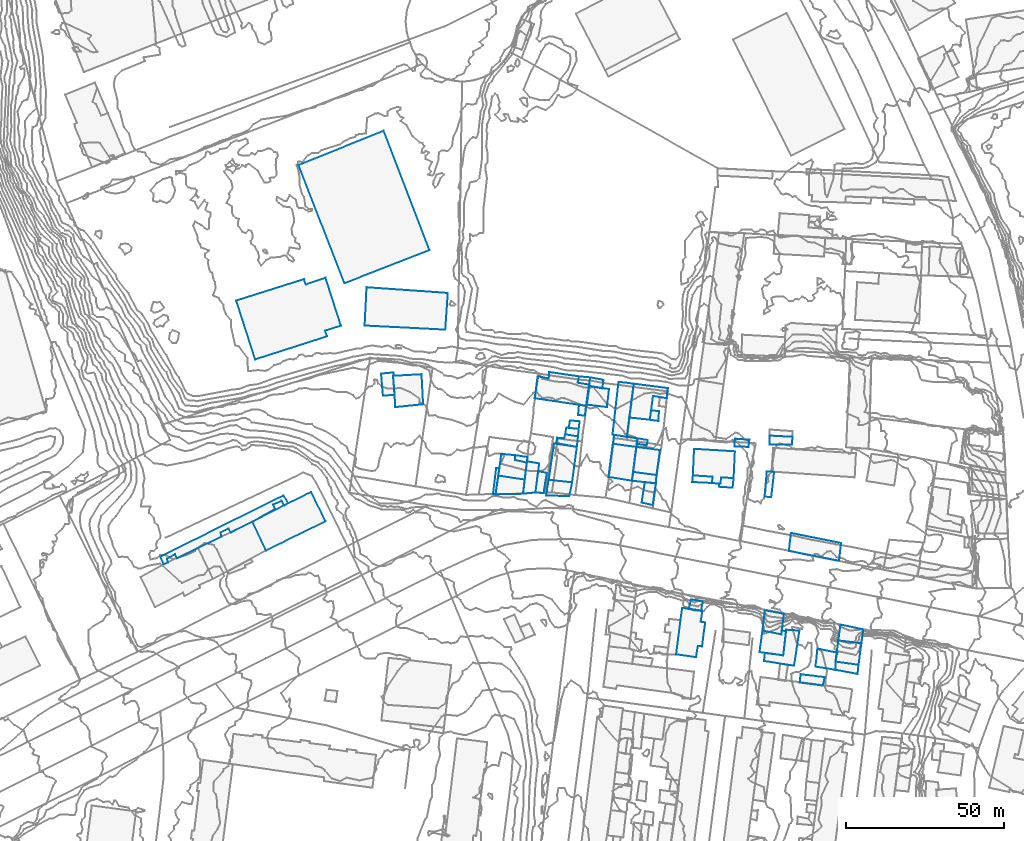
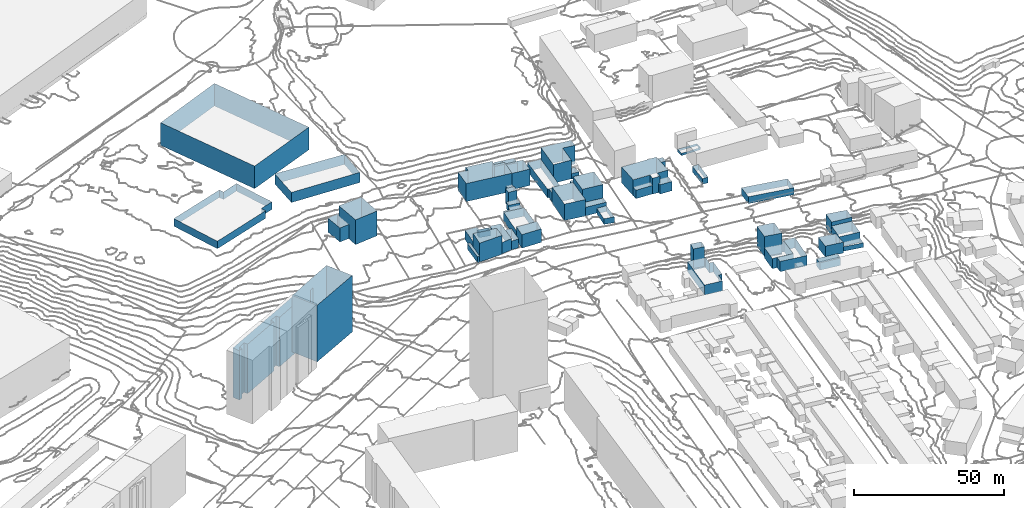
# Not in any storey, part 62 of 419: 49 walls.
"""IFC2X3 model written with IfcOpenShell, lengths in metres."""

from ifc_helpers import new_model, si_unit, frame, origin_with_axes, place, context, subcontext, project, faceted_brep, element, save


model = new_model("IFC2X3")

# Units and contexts
model_context = context("Model", 3, precision=1e-05, world=origin_with_axes())
body_context = subcontext(model_context, "Body", "Model", "MODEL_VIEW")
ifc_project = project(units=[si_unit("AREAUNIT", "SQUARE_METRE"), si_unit("LENGTHUNIT", "METRE")], contexts=[model_context])

# Walls
wall_1_placement = place(None, frame((458.1920204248, 875.7976909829, 41.0071994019), z_axis=(0.0, 0.0, 1.0), x_axis=(1.0, 0.0, 0.0)))
element("IfcWall", 1, at=wall_1_placement, Name="Mur 0", context=body_context, shape_type="Brep", body=[
    faceted_brep([(8.7000000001, 0.1999999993, 7.6928005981), (0.0, 0.0, 7.6928005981), (8.7000000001, 0.1999999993, 0.0), (0.0, 0.0, 0.0), (9.2000000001, 4.6999999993, 7.6928005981), (9.2000000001, 4.6999999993, 0.0), (0.9, 5.8999999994, 7.6928005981), (0.9, 5.8999999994, 0.0)], [[[0, 1, 2]], [[2, 1, 3]], [[4, 0, 5]], [[5, 0, 2]], [[1, 6, 3]], [[3, 6, 7]], [[6, 4, 7]], [[7, 4, 5]]]),
])
wall_2_placement = place(None, frame((425.7920204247, 913.2976909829, 42.4510005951), z_axis=(0.0, 0.0, 1.0), x_axis=(1.0, 0.0, 0.0)))
element("IfcWall", 2, at=wall_2_placement, Name="Mur 0", context=body_context, shape_type="Brep", body=[
    faceted_brep([(0.7000000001, -9.9000000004, 10.0489994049), (0.5, -6.6000000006, 10.0489994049), (0.7000000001, -9.9000000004, 0.0), (0.5, -6.6000000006, 0.0), (9.5, -9.0, 10.0489994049), (9.5, -9.0, 0.0), (9.0, 0.5, 10.0489994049), (9.0, 0.5, 0.0), (0.0, 0.0, 10.0489994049), (0.0, 0.0, 0.0)], [[[0, 1, 2]], [[2, 1, 3]], [[4, 0, 5]], [[5, 0, 2]], [[6, 4, 7]], [[7, 4, 5]], [[1, 8, 3]], [[3, 8, 9]], [[8, 6, 9]], [[9, 6, 7]]]),
])
wall_3_placement = place(None, frame((459.0920204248, 881.6976909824, 41.6847983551), z_axis=(0.0, 0.0, 1.0), x_axis=(1.0, 0.0, 0.0)))
element("IfcWall", 3, at=wall_3_placement, Name="Mur 0", context=body_context, shape_type="Brep", body=[
    faceted_brep([(9.0, 4.1000000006, 3.8152016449), (8.3, -1.2000000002, 3.8152016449), (9.0, 4.1000000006, 0.0), (8.3, -1.2000000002, 0.0), (5.2, 5.0, 3.8152016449), (5.2, 5.0, 0.0), (5.3, 6.5, 3.8152016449), (5.3, 6.5, 0.0), (0.9, 6.9000000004, 3.8152016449), (0.9, 6.9000000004, 0.0), (0.0, 0.0, 3.8152016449), (0.0, 0.0, 0.0)], [[[0, 1, 2]], [[2, 1, 3]], [[4, 0, 5]], [[5, 0, 2]], [[6, 4, 7]], [[7, 4, 5]], [[8, 6, 9]], [[9, 6, 7]], [[1, 10, 3]], [[3, 10, 11]], [[10, 8, 11]], [[11, 8, 9]]]),
])
wall_4_placement = place(None, frame((542.5920204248, 832.6976909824, 39.8529987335), z_axis=(0.0, 0.0, 1.0), x_axis=(1.0, 0.0, 0.0)))
element("IfcWall", 4, at=wall_4_placement, Name="Mur 0", context=body_context, shape_type="Brep", body=[
    faceted_brep([(0.0, 0.0, 8.1470012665), (0.8, 6.4000000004, 8.1470012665), (0.0, 0.0, 0.0), (0.8, 6.4000000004, 0.0), (6.0, -1.2000000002, 8.1470012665), (6.0, -1.2000000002, 0.0), (6.8, 5.2999999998, 8.1470012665), (6.8, 5.2999999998, 0.0)], [[[0, 1, 2]], [[2, 1, 3]], [[4, 0, 5]], [[5, 0, 2]], [[1, 6, 3]], [[3, 6, 7]], [[6, 4, 7]], [[7, 4, 5]]]),
])
wall_5_placement = place(None, frame((395.8920204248, 979.9976909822, 47.0405998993), z_axis=(0.0, 0.0, 1.0), x_axis=(1.0, 0.0, 0.0)))
element("IfcWall", 5, at=wall_5_placement, Name="Mur 0", context=body_context, shape_type="Brep", body=[
    faceted_brep([(41.3999999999, -26.8999999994, 9.1594001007), (14.5, -37.3999999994, 9.1594001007), (41.3999999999, -26.8999999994, 0.0), (14.5, -37.3999999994, 0.0), (26.8999999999, 10.8000000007, 9.1594001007), (26.8999999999, 10.8000000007, 0.0), (0.0, 0.0, 9.1594001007), (0.0, 0.0, 0.0)], [[[0, 1, 2]], [[2, 1, 3]], [[4, 0, 5]], [[5, 0, 2]], [[1, 6, 3]], [[3, 6, 7]], [[6, 4, 7]], [[7, 4, 5]]]),
])
wall_6_placement = place(None, frame((533.7920204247, 890.9976909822, 42.5391987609), z_axis=(0.0, 0.0, 1.0), x_axis=(1.0, 0.0, 0.0)))
element("IfcWall", 6, at=wall_6_placement, Name="Mur 0", context=body_context, shape_type="Brep", body=[
    faceted_brep([(0.1000000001, 2.4000000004, 2.3608012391), (4.7000000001, 2.1000000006, 2.3608012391), (0.1000000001, 2.4000000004, 0.0), (4.7000000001, 2.1000000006, 0.0), (0.0, 0.0, 2.3608012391), (0.0, 0.0, 0.0), (4.4, -0.1999999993, 2.3608012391), (4.4, -0.1999999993, 0.0)], [[[0, 1, 2]], [[2, 1, 3]], [[4, 0, 5]], [[5, 0, 2]], [[1, 6, 3]], [[3, 6, 7]], [[6, 4, 7]], [[7, 4, 5]]]),
])
wall_7_placement = place(None, frame((544.7920204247, 891.5976909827, 44.2845994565), z_axis=(0.0, 0.0, 1.0), x_axis=(1.0, 0.0, 0.0)))
element("IfcWall", 7, at=wall_7_placement, Name="Mur 0", context=body_context, shape_type="Brep", body=[
    faceted_brep([(0.0, 2.7999999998, 0.9154005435), (7.3, 2.3999999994, 0.9154005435), (0.0, 2.7999999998, 0.0), (7.3, 2.3999999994, 0.0), (0.0, 0.0, 0.9154005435), (0.0, 0.0, 0.0), (7.2000000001, -0.1000000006, 0.9154005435), (7.2000000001, -0.1000000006, 0.0)], [[[0, 1, 2]], [[2, 1, 3]], [[4, 0, 5]], [[5, 0, 2]], [[1, 6, 3]], [[3, 6, 7]], [[6, 4, 7]], [[7, 4, 5]]]),
])
wall_8_placement = place(None, frame((480.1920204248, 894.7976909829, 42.2463998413), z_axis=(0.0, 0.0, 1.0), x_axis=(1.0, 0.0, 0.0)))
element("IfcWall", 8, at=wall_8_placement, Name="Mur 0", context=body_context, shape_type="Brep", body=[
    faceted_brep([(4.3, 1.6999999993, 2.5536001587), (4.1, -0.7000000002, 2.5536001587), (4.3, 1.6999999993, 0.0), (4.1, -0.7000000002, 0.0), (0.4, 2.0999999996, 2.5536001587), (0.4, 2.0999999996, 0.0), (0.0, 0.0, 2.5536001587), (0.0, 0.0, 0.0)], [[[0, 1, 2]], [[2, 1, 3]], [[4, 0, 5]], [[5, 0, 2]], [[1, 6, 3]], [[3, 6, 7]], [[6, 4, 7]], [[7, 4, 5]]]),
])
wall_9_placement = place(None, frame((550.9920204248, 857.8976909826, 43.0979988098), z_axis=(0.0, 0.0, 1.0), x_axis=(1.0, 0.0, 0.0)))
element("IfcWall", 9, at=wall_9_placement, Name="Mur 0", context=body_context, shape_type="Brep", body=[
    faceted_brep([(0.0, 0.0, 2.8020011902), (0.6, 5.7000000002, 2.8020011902), (0.0, 0.0, 0.0), (0.6, 5.7000000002, 0.0), (15.7999999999, -3.0999999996, 2.8020011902), (15.7999999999, -3.0999999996, 0.0), (16.5, 2.5, 2.8020011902), (16.5, 2.5, 0.0)], [[[0, 1, 2]], [[2, 1, 3]], [[4, 0, 5]], [[5, 0, 2]], [[1, 6, 3]], [[3, 6, 7]], [[6, 4, 7]], [[7, 4, 5]]]),
])
wall_10_placement = place(None, frame((500.4920204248, 900.0976909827, 43.4157009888), z_axis=(0.0, 0.0, 1.0), x_axis=(1.0, 0.0, 0.0)))
element("IfcWall", 10, at=wall_10_placement, Name="Mur 0", context=body_context, shape_type="Brep", body=[
    faceted_brep([(6.5, -0.7000000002, 7.5842990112), (0.0, 0.0, 7.5842990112), (6.5, -0.7000000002, 0.0), (0.0, 0.0, 0.0), (7.5, 6.7999999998, 7.5842990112), (7.5, 6.7999999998, 0.0), (11.7999999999, 6.0999999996, 7.5842990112), (11.7999999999, 6.0999999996, 0.0), (12.2, 9.2999999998, 7.5842990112), (12.2, 9.2999999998, 0.0), (1.4, 10.7000000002, 7.5842990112), (1.4, 10.7000000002, 0.0)], [[[0, 1, 2]], [[2, 1, 3]], [[4, 0, 5]], [[5, 0, 2]], [[6, 4, 7]], [[7, 4, 5]], [[8, 6, 9]], [[9, 6, 7]], [[1, 10, 3]], [[3, 10, 11]], [[10, 8, 11]], [[11, 8, 9]]]),
])
wall_11_placement = place(None, frame((501.6920204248, 882.8976909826, 42.2700004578), z_axis=(0.0, 0.0, 1.0), x_axis=(1.0, 0.0, 0.0)))
element("IfcWall", 11, at=wall_11_placement, Name="Mur 0", context=body_context, shape_type="Brep", body=[
    faceted_brep([(7.4, -1.0, 8.7299995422), (0.0, 0.0, 8.7299995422), (7.4, -1.0, 0.0), (0.0, 0.0, 0.0), (8.5, 6.9000000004, 8.7299995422), (8.5, 6.9000000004, 0.0), (1.0, 7.9000000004, 8.7299995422), (1.0, 7.9000000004, 0.0)], [[[0, 1, 2]], [[2, 1, 3]], [[4, 0, 5]], [[5, 0, 2]], [[1, 6, 3]], [[3, 6, 7]], [[6, 4, 7]], [[7, 4, 5]]]),
])
wall_12_placement = place(None, frame((484.2920204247, 900.8976909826, 42.6344995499), z_axis=(0.0, 0.0, 1.0), x_axis=(1.0, 0.0, 0.0)))
element("IfcWall", 12, at=wall_12_placement, Name="Mur 0", context=body_context, shape_type="Brep", body=[
    faceted_brep([(2.5, 2.9000000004, 2.8655004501), (2.2000000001, -0.2000000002, 2.8655004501), (2.5, 2.9000000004, 0.0), (2.2000000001, -0.2000000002, 0.0), (0.3, 3.2999999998, 2.8655004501), (0.3, 3.2999999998, 0.0), (0.0, 0.0, 2.8655004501), (0.0, 0.0, 0.0)], [[[0, 1, 2]], [[2, 1, 3]], [[4, 0, 5]], [[5, 0, 2]], [[1, 6, 3]], [[3, 6, 7]], [[6, 4, 7]], [[7, 4, 5]]]),
])
wall_13_placement = place(None, frame((566.5920204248, 829.5976909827, 41.7505994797), z_axis=(0.0, 0.0, 1.0), x_axis=(1.0, 0.0, 0.0)))
element("IfcWall", 13, at=wall_13_placement, Name="Mur 0", context=body_context, shape_type="Brep", body=[
    faceted_brep([(0.0, 0.0, 5.5494005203), (0.7, 5.0, 5.5494005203), (0.0, 0.0, 0.0), (0.7, 5.0, 0.0), (7.3, -0.9000000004, 5.5494005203), (7.3, -0.9000000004, 0.0), (7.9, 3.5, 5.5494005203), (7.9, 3.5, 0.0)], [[[0, 1, 2]], [[2, 1, 3]], [[4, 0, 5]], [[5, 0, 2]], [[1, 6, 3]], [[3, 6, 7]], [[6, 4, 7]], [[7, 4, 5]]]),
])
wall_14_placement = place(None, frame((543.2920204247, 875.0976909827, 43.1939998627), z_axis=(0.0, 0.0, 1.0), x_axis=(1.0, 0.0, 0.0)))
element("IfcWall", 14, at=wall_14_placement, Name="Mur 0", context=body_context, shape_type="Brep", body=[
    faceted_brep([(0.7000000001, 7.8999999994, 2.3060001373), (2.2000000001, 7.8999999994, 2.3060001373), (0.7000000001, 7.8999999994, 0.0), (2.2000000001, 7.8999999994, 0.0), (0.0, 0.0, 2.3060001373), (0.0, 0.0, 0.0), (2.1000000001, -0.2000000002, 2.3060001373), (2.1000000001, -0.2000000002, 0.0), (3.0, 7.7999999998, 2.3060001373), (3.0, 7.7999999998, 0.0)], [[[0, 1, 2]], [[2, 1, 3]], [[4, 0, 5]], [[5, 0, 2]], [[6, 4, 7]], [[7, 4, 5]], [[1, 8, 3]], [[3, 8, 9]], [[8, 6, 9]], [[9, 6, 7]]]),
])
wall_15_placement = place(None, frame((495.2920204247, 891.7976909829, 42.5880012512), z_axis=(0.0, 0.0, 1.0), x_axis=(1.0, 0.0, 0.0)))
element("IfcWall", 15, at=wall_15_placement, Name="Mur 0", context=body_context, shape_type="Brep", body=[
    faceted_brep([(7.8, 1.6999999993, 3.6119987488), (7.4, -1.0, 3.6119987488), (7.8, 1.6999999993, 0.0), (7.4, -1.0, 0.0), (0.4, 2.7999999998, 3.6119987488), (0.4, 2.7999999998, 0.0), (0.0, 0.0, 3.6119987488), (0.0, 0.0, 0.0)], [[[0, 1, 2]], [[2, 1, 3]], [[4, 0, 5]], [[5, 0, 2]], [[1, 6, 3]], [[3, 6, 7]], [[6, 4, 7]], [[7, 4, 5]]]),
])
wall_16_placement = place(None, frame((506.9920204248, 899.3976909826, 43.2331013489), z_axis=(0.0, 0.0, 1.0), x_axis=(1.0, 0.0, 0.0)))
element("IfcWall", 16, at=wall_16_placement, Name="Mur 0", context=body_context, shape_type="Brep", body=[
    faceted_brep([(0.0, 0.0, 2.2668986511), (0.4, 3.0, 2.2668986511), (0.0, 0.0, 0.0), (0.4, 3.0, 0.0), (2.7, -0.4000000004, 2.2668986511), (2.7, -0.4000000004, 0.0), (2.9, 2.7000000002, 2.2668986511), (2.9, 2.7000000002, 0.0)], [[[0, 1, 2]], [[2, 1, 3]], [[4, 0, 5]], [[5, 0, 2]], [[1, 6, 3]], [[3, 6, 7]], [[6, 4, 7]], [[7, 4, 5]]]),
])
wall_17_placement = place(None, frame((502.7920204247, 891.7976909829, 43.0129997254), z_axis=(0.0, 0.0, 1.0), x_axis=(1.0, 0.0, 0.0)))
element("IfcWall", 17, at=wall_17_placement, Name="Mur 0", context=body_context, shape_type="Brep", body=[
    faceted_brep([(3.2000000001, -0.5, 4.4870002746), (0.0, 0.0, 4.4870002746), (3.2000000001, -0.5, 0.0), (0.0, 0.0, 0.0), (3.5, 1.1999999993, 4.4870002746), (3.5, 1.1999999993, 0.0), (0.3, 1.6999999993, 4.4870002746), (0.3, 1.6999999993, 0.0)], [[[0, 1, 2]], [[2, 1, 3]], [[4, 0, 5]], [[5, 0, 2]], [[1, 6, 3]], [[3, 6, 7]], [[6, 4, 7]], [[7, 4, 5]]]),
])
wall_18_placement = place(None, frame((504.3920204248, 873.1976909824, 41.6864009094), z_axis=(0.0, 0.0, 1.0), x_axis=(1.0, 0.0, 0.0)))
element("IfcWall", 18, at=wall_18_placement, Name="Mur 0", context=body_context, shape_type="Brep", body=[
    faceted_brep([(3.5, -0.7999999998, 2.3135990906), (0.0, 0.0, 2.3135990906), (3.5, -0.7999999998, 0.0), (0.0, 0.0, 0.0), (4.5, 6.1000000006, 2.3135990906), (4.5, 6.1000000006, 0.0), (1.0, 6.4000000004, 2.3135990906), (1.0, 6.4000000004, 0.0)], [[[0, 1, 2]], [[2, 1, 3]], [[4, 0, 5]], [[5, 0, 2]], [[1, 6, 3]], [[3, 6, 7]], [[6, 4, 7]], [[7, 4, 5]]]),
])
wall_19_placement = place(None, frame((495.1920204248, 894.6976909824, 42.6488001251), z_axis=(0.0, 0.0, 1.0), x_axis=(1.0, 0.0, 0.0)))
element("IfcWall", 19, at=wall_19_placement, Name="Mur 0", context=body_context, shape_type="Brep", body=[
    faceted_brep([(6.7000000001, 16.1000000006, 3.5511998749), (4.5, -0.7000000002, 3.5511998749), (6.7000000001, 16.1000000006, 0.0), (4.5, -0.7000000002, 0.0), (1.9, 16.7000000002, 3.5511998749), (1.9, 16.7000000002, 0.0), (0.0, 0.0, 3.5511998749), (0.0, 0.0, 0.0)], [[[0, 1, 2]], [[2, 1, 3]], [[4, 0, 5]], [[5, 0, 2]], [[1, 6, 3]], [[3, 6, 7]], [[6, 4, 7]], [[7, 4, 5]]]),
])
wall_20_placement = place(None, frame((501.2920204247, 880.0976909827, 42.0417996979), z_axis=(0.0, 0.0, 1.0), x_axis=(1.0, 0.0, 0.0)))
element("IfcWall", 20, at=wall_20_placement, Name="Mur 0", context=body_context, shape_type="Brep", body=[
    faceted_brep([(7.6000000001, -0.7999999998, 3.4582003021), (0.0, 0.0, 3.4582003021), (7.6000000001, -0.7999999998, 0.0), (0.0, 0.0, 0.0), (7.8, 1.7999999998, 3.4582003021), (7.8, 1.7999999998, 0.0), (0.4, 2.7999999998, 3.4582003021), (0.4, 2.7999999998, 0.0)], [[[0, 1, 2]], [[2, 1, 3]], [[4, 0, 5]], [[5, 0, 2]], [[1, 6, 3]], [[3, 6, 7]], [[6, 4, 7]], [[7, 4, 5]]]),
])
wall_21_placement = place(None, frame((477.3920204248, 891.9976909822, 42.0708004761), z_axis=(0.0, 0.0, 1.0), x_axis=(1.0, 0.0, 0.0)))
element("IfcWall", 21, at=wall_21_placement, Name="Mur 0", context=body_context, shape_type="Brep", body=[
    faceted_brep([(6.8999999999, 2.1000000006, 1.9291995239), (6.5, -1.1999999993, 1.9291995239), (6.8999999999, 2.1000000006, 0.0), (6.5, -1.1999999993, 0.0), (2.7999999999, 2.8000000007, 1.9291995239), (2.7999999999, 2.8000000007, 0.0), (2.5, 1.5, 1.9291995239), (2.5, 1.5, 0.0), (0.2999999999, 1.7000000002, 1.9291995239), (0.2999999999, 1.7000000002, 0.0), (0.0, 0.0, 1.9291995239), (0.0, 0.0, 0.0)], [[[0, 1, 2]], [[2, 1, 3]], [[4, 0, 5]], [[5, 0, 2]], [[6, 4, 7]], [[7, 4, 5]], [[8, 6, 9]], [[9, 6, 7]], [[1, 10, 3]], [[3, 10, 11]], [[10, 8, 11]], [[11, 8, 9]]]),
])
wall_22_placement = place(None, frame((528.7920204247, 879.1976909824, 42.4230003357), z_axis=(0.0, 0.0, 1.0), x_axis=(1.0, 0.0, 0.0)))
element("IfcWall", 22, at=wall_22_placement, Name="Mur 0", context=body_context, shape_type="Brep", body=[
    faceted_brep([(0.8, 2.0, 3.7769996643), (4.7000000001, 1.7000000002, 3.7769996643), (0.8, 2.0, 0.0), (4.7000000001, 1.7000000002, 0.0), (0.5, 0.0, 3.7769996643), (0.5, 0.0, 0.0), (0.0, 0.0, 3.7769996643), (0.0, 0.0, 0.0), (0.1000000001, -1.0, 3.7769996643), (0.1000000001, -1.0, 0.0), (4.4, -1.2999999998, 3.7769996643), (4.4, -1.2999999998, 0.0)], [[[0, 1, 2]], [[2, 1, 3]], [[4, 0, 5]], [[5, 0, 2]], [[6, 4, 7]], [[7, 4, 5]], [[8, 6, 9]], [[9, 6, 7]], [[1, 10, 3]], [[3, 10, 11]], [[10, 8, 11]], [[11, 8, 9]]]),
])
wall_23_placement = place(None, frame((470.7920204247, 876.3976909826, 41.2335997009), z_axis=(0.0, 0.0, 1.0), x_axis=(1.0, 0.0, 0.0)))
element("IfcWall", 23, at=wall_23_placement, Name="Mur 0", context=body_context, shape_type="Brep", body=[
    faceted_brep([(2.6000000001, -0.2000000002, 3.5664002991), (0.0, 0.0, 3.5664002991), (2.6000000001, -0.2000000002, 0.0), (0.0, 0.0, 0.0), (3.6000000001, 6.2000000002, 3.5664002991), (3.6000000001, 6.2000000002, 0.0), (0.9, 6.7000000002, 3.5664002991), (0.9, 6.7000000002, 0.0)], [[[0, 1, 2]], [[2, 1, 3]], [[4, 0, 5]], [[5, 0, 2]], [[1, 6, 3]], [[3, 6, 7]], [[6, 4, 7]], [[7, 4, 5]]]),
])
wall_24_placement = place(None, frame((416.7920204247, 929.1976909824, 47.2854008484), z_axis=(0.0, 0.0, 1.0), x_axis=(1.0, 0.0, 0.0)))
element("IfcWall", 24, at=wall_24_placement, Name="Mur 0", context=body_context, shape_type="Brep", body=[
    faceted_brep([(25.5, -1.2999999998, 4.1145991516), (0.0, 0.0, 4.1145991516), (25.5, -1.2999999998, 0.0), (0.0, 0.0, 0.0), (26.3, 10.2999999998, 4.1145991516), (26.3, 10.2999999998, 0.0), (0.6000000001, 12.1000000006, 4.1145991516), (0.6000000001, 12.1000000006, 0.0)], [[[0, 1, 2]], [[2, 1, 3]], [[4, 0, 5]], [[5, 0, 2]], [[1, 6, 3]], [[3, 6, 7]], [[6, 4, 7]], [[7, 4, 5]]]),
])
wall_25_placement = place(None, frame((515.2920204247, 825.1976909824, 38.3253993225), z_axis=(0.0, 0.0, 1.0), x_axis=(1.0, 0.0, 0.0)))
element("IfcWall", 25, at=wall_25_placement, Name="Mur 0", context=body_context, shape_type="Brep", body=[
    faceted_brep([(0.0, 0.0, 4.0746006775), (1.4, 10.7999999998, 4.0746006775), (0.0, 0.0, 0.0), (1.4, 10.7999999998, 0.0), (6.3, -0.8999999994, 4.0746006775), (6.3, -0.8999999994, 0.0), (6.9, 2.7000000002, 4.0746006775), (6.9, 2.7000000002, 0.0), (8.2000000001, 2.5, 4.0746006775), (8.2000000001, 2.5, 0.0), (9.2000000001, 10.1000000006, 4.0746006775), (9.2000000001, 10.1000000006, 0.0), (7.8, 10.2999999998, 4.0746006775), (7.8, 10.2999999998, 0.0), (8.3, 13.7999999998, 4.0746006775), (8.3, 13.7999999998, 0.0), (1.9, 14.7000000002, 4.0746006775), (1.9, 14.7000000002, 0.0)], [[[0, 1, 2]], [[2, 1, 3]], [[4, 0, 5]], [[5, 0, 2]], [[6, 4, 7]], [[7, 4, 5]], [[8, 6, 9]], [[9, 6, 7]], [[10, 8, 11]], [[11, 8, 9]], [[12, 10, 13]], [[13, 10, 11]], [[14, 12, 15]], [[15, 12, 13]], [[1, 16, 3]], [[3, 16, 17]], [[16, 14, 17]], [[17, 14, 15]]]),
])
wall_26_placement = place(None, frame((352.1920204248, 856.1976909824, 35.1541996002), z_axis=(0.0, 0.0, 1.0), x_axis=(1.0, 0.0, 0.0)))
element("IfcWall", 26, at=wall_26_placement, Name="Mur 0", context=body_context, shape_type="Brep", body=[
    faceted_brep([(39.0, 19.2999999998, 20.0458003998), (40.4, 16.7999999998, 20.0458003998), (39.0, 19.2999999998, 0.0), (40.4, 16.7999999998, 0.0), (0.0, 0.0, 20.0458003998), (0.0, 0.0, 0.0), (1.0, -2.5, 20.0458003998), (1.0, -2.5, 0.0), (2.4, -1.8999999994, 20.0458003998), (2.4, -1.8999999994, 0.0), (2.1, -0.7000000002, 20.0458003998), (2.1, -0.7000000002, 0.0), (4.6, 0.7000000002, 20.0458003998), (4.6, 0.7000000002, 0.0), (5.3, -0.5999999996, 20.0458003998), (5.3, -0.5999999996, 0.0), (19.3, 6.2999999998, 20.0458003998), (19.3, 6.2999999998, 0.0), (19.0, 7.6000000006, 20.0458003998), (19.0, 7.6000000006, 0.0), (21.6, 8.7999999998, 20.0458003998), (21.6, 8.7999999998, 0.0), (22.3, 7.6000000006, 20.0458003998), (22.3, 7.6000000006, 0.0), (29.1, 11.0, 20.0458003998), (29.1, 11.0, 0.0), (36.3, 15.0, 20.0458003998), (36.3, 15.0, 0.0), (35.7000000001, 16.4000000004, 20.0458003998), (35.7000000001, 16.4000000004, 0.0), (38.4, 17.6000000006, 20.0458003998), (38.4, 17.6000000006, 0.0), (39.1, 16.1000000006, 20.0458003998), (39.1, 16.1000000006, 0.0)], [[[0, 1, 2]], [[2, 1, 3]], [[4, 0, 5]], [[5, 0, 2]], [[6, 4, 7]], [[7, 4, 5]], [[8, 6, 9]], [[9, 6, 7]], [[10, 8, 11]], [[11, 8, 9]], [[12, 10, 13]], [[13, 10, 11]], [[14, 12, 15]], [[15, 12, 13]], [[16, 14, 17]], [[17, 14, 15]], [[18, 16, 19]], [[19, 16, 17]], [[20, 18, 21]], [[21, 18, 19]], [[22, 20, 23]], [[23, 20, 21]], [[24, 22, 25]], [[25, 22, 23]], [[26, 24, 27]], [[27, 24, 25]], [[28, 26, 29]], [[29, 26, 27]], [[30, 28, 31]], [[31, 28, 29]], [[1, 32, 3]], [[3, 32, 33]], [[32, 30, 33]], [[33, 30, 31]]]),
])
wall_27_placement = place(None, frame((565.6920204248, 822.8976909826, 41.4136007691), z_axis=(0.0, 0.0, 1.0), x_axis=(1.0, 0.0, 0.0)))
element("IfcWall", 27, at=wall_27_placement, Name="Mur 0", context=body_context, shape_type="Brep", body=[
    faceted_brep([(0.0, 0.0, 1.7863992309), (7.3, -1.0, 1.7863992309), (0.0, 0.0, 0.0), (7.3, -1.0, 0.0), (0.1, -2.5999999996, 1.7863992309), (0.1, -2.5999999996, 0.0), (7.0, -3.9000000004, 1.7863992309), (7.0, -3.9000000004, 0.0)], [[[0, 1, 2]], [[2, 1, 3]], [[4, 0, 5]], [[5, 0, 2]], [[1, 6, 3]], [[3, 6, 7]], [[6, 4, 7]], [[7, 4, 5]]]),
])
wall_28_placement = place(None, frame((519.2920204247, 839.5976909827, 38.9325999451), z_axis=(0.0, 0.0, 1.0), x_axis=(1.0, 0.0, 0.0)))
element("IfcWall", 28, at=wall_28_placement, Name="Mur 0", context=body_context, shape_type="Brep", body=[
    faceted_brep([(0.0, 0.0, 7.9674000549), (0.7000000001, 3.0, 7.9674000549), (0.0, 0.0, 0.0), (0.7000000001, 3.0, 0.0), (3.9, -0.7000000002, 7.9674000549), (3.9, -0.7000000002, 0.0), (4.4, 2.2999999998, 7.9674000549), (4.4, 2.2999999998, 0.0)], [[[0, 1, 2]], [[2, 1, 3]], [[4, 0, 5]], [[5, 0, 2]], [[1, 6, 3]], [[3, 6, 7]], [[6, 4, 7]], [[7, 4, 5]]]),
])
wall_29_placement = place(None, frame((487.7920204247, 910.0976909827, 44.0066000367), z_axis=(0.0, 0.0, 1.0), x_axis=(1.0, 0.0, 0.0)))
element("IfcWall", 29, at=wall_29_placement, Name="Mur 0", context=body_context, shape_type="Brep", body=[
    faceted_brep([(4.2000000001, -0.7999999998, 5.1933999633), (0.0, 0.0, 5.1933999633), (4.2000000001, -0.7999999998, 0.0), (0.0, 0.0, 0.0), (4.5, 1.8999999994, 5.1933999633), (4.5, 1.8999999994, 0.0), (0.3, 2.7000000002, 5.1933999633), (0.3, 2.7000000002, 0.0)], [[[0, 1, 2]], [[2, 1, 3]], [[4, 0, 5]], [[5, 0, 2]], [[1, 6, 3]], [[3, 6, 7]], [[6, 4, 7]], [[7, 4, 5]]]),
])
wall_30_placement = place(None, frame((421.9920204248, 913.9976909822, 42.7140007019), z_axis=(0.0, 0.0, 1.0), x_axis=(1.0, 0.0, 0.0)))
element("IfcWall", 30, at=wall_30_placement, Name="Mur 0", context=body_context, shape_type="Brep", body=[
    faceted_brep([(4.0, 0.4000000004, 5.6859992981), (3.7999999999, -0.6999999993, 5.6859992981), (4.0, 0.4000000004, 0.0), (3.7999999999, -0.6999999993, 0.0), (0.0, 0.0, 5.6859992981), (0.0, 0.0, 0.0), (0.6, -7.0, 5.6859992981), (0.6, -7.0, 0.0), (4.2999999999, -6.6999999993, 5.6859992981), (4.2999999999, -6.6999999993, 0.0)], [[[0, 1, 2]], [[2, 1, 3]], [[4, 0, 5]], [[5, 0, 2]], [[6, 4, 7]], [[7, 4, 5]], [[1, 8, 3]], [[3, 8, 9]], [[8, 6, 9]], [[9, 6, 7]]]),
])
wall_31_placement = place(None, frame((474.1920204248, 875.4976909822, 41.2408004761), z_axis=(0.0, 0.0, 1.0), x_axis=(1.0, 0.0, 0.0)))
element("IfcWall", 31, at=wall_31_placement, Name="Mur 0", context=body_context, shape_type="Brep", body=[
    faceted_brep([(8.2000000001, 4.1000000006, 5.4591995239), (7.3, -0.2999999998, 5.4591995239), (8.2000000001, 4.1000000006, 0.0), (7.3, -0.2999999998, 0.0), (0.8, 4.9000000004, 5.4591995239), (0.8, 4.9000000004, 0.0), (0.0, 0.0, 5.4591995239), (0.0, 0.0, 0.0)], [[[0, 1, 2]], [[2, 1, 3]], [[4, 0, 5]], [[5, 0, 2]], [[1, 6, 3]], [[3, 6, 7]], [[6, 4, 7]], [[7, 4, 5]]]),
])
wall_32_placement = place(None, frame((520.3920204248, 879.6976909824, 42.5600013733), z_axis=(0.0, 0.0, 1.0), x_axis=(1.0, 0.0, 0.0)))
element("IfcWall", 32, at=wall_32_placement, Name="Mur 0", context=body_context, shape_type="Brep", body=[
    faceted_brep([(6.5, 1.7000000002, 3.4399986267), (6.2, -0.2999999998, 3.4399986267), (6.5, 1.7000000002, 0.0), (6.2, -0.2999999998, 0.0), (0.2, 2.1000000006, 3.4399986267), (0.2, 2.1000000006, 0.0), (0.0, 0.0, 3.4399986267), (0.0, 0.0, 0.0)], [[[0, 1, 2]], [[2, 1, 3]], [[4, 0, 5]], [[5, 0, 2]], [[1, 6, 3]], [[3, 6, 7]], [[6, 4, 7]], [[7, 4, 5]]]),
])
wall_33_placement = place(None, frame((559.3920204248, 821.2976909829, 40.6684007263), z_axis=(0.0, 0.0, 1.0), x_axis=(1.0, 0.0, 0.0)))
element("IfcWall", 33, at=wall_33_placement, Name="Mur 0", context=body_context, shape_type="Brep", body=[
    faceted_brep([(0.6, 5.6999999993, 4.4315992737), (6.8999999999, 4.3999999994, 4.4315992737), (0.6, 5.6999999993, 0.0), (6.8999999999, 4.3999999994, 0.0), (0.0, 0.0, 4.4315992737), (0.0, 0.0, 0.0), (6.3999999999, -1.0, 4.4315992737), (6.3999999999, -1.0, 0.0), (6.2999999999, 1.5999999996, 4.4315992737), (6.2999999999, 1.5999999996, 0.0)], [[[0, 1, 2]], [[2, 1, 3]], [[4, 0, 5]], [[5, 0, 2]], [[6, 4, 7]], [[7, 4, 5]], [[1, 8, 3]], [[3, 8, 9]], [[8, 6, 9]], [[9, 6, 7]]]),
])
wall_34_placement = place(None, frame((470.5920204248, 906.1976909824, 42.7679992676), z_axis=(0.0, 0.0, 1.0), x_axis=(1.0, 0.0, 0.0)))
element("IfcWall", 34, at=wall_34_placement, Name="Mur 0", context=body_context, shape_type="Brep", body=[
    faceted_brep([(17.2, 4.2999999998, 7.3320007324), (16.2, -2.3999999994, 7.3320007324), (17.2, 4.2999999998, 0.0), (16.2, -2.3999999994, 0.0), (13.6, 4.9000000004, 7.3320007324), (13.6, 4.9000000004, 0.0), (14.0, 6.9000000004, 7.3320007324), (14.0, 6.9000000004, 0.0), (4.6, 8.2999999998, 7.3320007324), (4.6, 8.2999999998, 0.0), (4.4, 6.2999999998, 7.3320007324), (4.4, 6.2999999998, 0.0), (0.9, 6.9000000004, 7.3320007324), (0.9, 6.9000000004, 0.0), (0.0, 0.0, 7.3320007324), (0.0, 0.0, 0.0)], [[[0, 1, 2]], [[2, 1, 3]], [[4, 0, 5]], [[5, 0, 2]], [[6, 4, 7]], [[7, 4, 5]], [[8, 6, 9]], [[9, 6, 7]], [[10, 8, 11]], [[11, 8, 9]], [[12, 10, 13]], [[13, 10, 11]], [[1, 14, 3]], [[3, 14, 15]], [[14, 12, 15]], [[15, 12, 13]]]),
])
wall_35_placement = place(None, frame((484.1920204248, 911.0976909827, 44.0698001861), z_axis=(0.0, 0.0, 1.0), x_axis=(1.0, 0.0, 0.0)))
element("IfcWall", 35, at=wall_35_placement, Name="Mur 0", context=body_context, shape_type="Brep", body=[
    faceted_brep([(3.9, 1.7000000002, 5.2301998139), (3.6, -0.6000000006, 5.2301998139), (3.9, 1.7000000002, 0.0), (3.6, -0.6000000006, 0.0), (0.4, 2.0, 5.2301998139), (0.4, 2.0, 0.0), (0.0, 0.0, 5.2301998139), (0.0, 0.0, 0.0)], [[[0, 1, 2]], [[2, 1, 3]], [[4, 0, 5]], [[5, 0, 2]], [[1, 6, 3]], [[3, 6, 7]], [[6, 4, 7]], [[7, 4, 5]]]),
])
wall_36_placement = place(None, frame((493.8920204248, 881.2976909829, 42.0278996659), z_axis=(0.0, 0.0, 1.0), x_axis=(1.0, 0.0, 0.0)))
element("IfcWall", 36, at=wall_36_placement, Name="Mur 0", context=body_context, shape_type="Brep", body=[
    faceted_brep([(8.7999999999, 9.5, 6.6721003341), (7.3999999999, -1.2000000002, 6.6721003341), (8.7999999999, 9.5, 0.0), (7.3999999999, -1.2000000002, 0.0), (1.3999999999, 10.5, 6.6721003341), (1.3999999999, 10.5, 0.0), (0.0, 0.0, 6.6721003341), (0.0, 0.0, 0.0)], [[[0, 1, 2]], [[2, 1, 3]], [[4, 0, 5]], [[5, 0, 2]], [[1, 6, 3]], [[3, 6, 7]], [[6, 4, 7]], [[7, 4, 5]]]),
])
wall_37_placement = place(None, frame((376.1920204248, 937.0976909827, 47.1326005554), z_axis=(0.0, 0.0, 1.0), x_axis=(1.0, 0.0, 0.0)))
element("IfcWall", 37, at=wall_37_placement, Name="Mur 0", context=body_context, shape_type="Brep", body=[
    faceted_brep([(6.0, -18.6000000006, 3.0673994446), (0.0, 0.0, 3.0673994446), (6.0, -18.6000000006, 0.0), (0.0, 0.0, 0.0), (28.7000000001, -11.2999999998, 3.0673994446), (28.7000000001, -11.2999999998, 0.0), (28.1, -9.5, 3.0673994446), (28.1, -9.5, 0.0), (33.1, -7.9000000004, 3.0673994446), (33.1, -7.9000000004, 0.0), (28.2000000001, 7.2000000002, 3.0673994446), (28.2000000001, 7.2000000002, 0.0), (22.0, 5.0999999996, 3.0673994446), (22.0, 5.0999999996, 0.0), (21.4, 6.7999999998, 3.0673994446), (21.4, 6.7999999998, 0.0)], [[[0, 1, 2]], [[2, 1, 3]], [[4, 0, 5]], [[5, 0, 2]], [[6, 4, 7]], [[7, 4, 5]], [[8, 6, 9]], [[9, 6, 7]], [[10, 8, 11]], [[11, 8, 9]], [[12, 10, 13]], [[13, 10, 11]], [[1, 14, 3]], [[3, 14, 15]], [[14, 12, 15]], [[15, 12, 13]]]),
])
wall_38_placement = place(None, frame((464.2920204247, 886.6976909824, 42.165001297), z_axis=(0.0, 0.0, 1.0), x_axis=(1.0, 0.0, 0.0)))
element("IfcWall", 38, at=wall_38_placement, Name="Mur 0", context=body_context, shape_type="Brep", body=[
    faceted_brep([(4.0, 0.9000000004, 2.134998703), (3.8, -0.8999999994, 2.134998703), (4.0, 0.9000000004, 0.0), (3.8, -0.8999999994, 0.0), (0.1000000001, 1.5, 2.134998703), (0.1000000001, 1.5, 0.0), (0.0, 0.0, 2.134998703), (0.0, 0.0, 0.0)], [[[0, 1, 2]], [[2, 1, 3]], [[4, 0, 5]], [[5, 0, 2]], [[1, 6, 3]], [[3, 6, 7]], [[6, 4, 7]], [[7, 4, 5]]]),
])
wall_39_placement = place(None, frame((466.8920204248, 875.9976909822, 41.1874002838), z_axis=(0.0, 0.0, 1.0), x_axis=(1.0, 0.0, 0.0)))
element("IfcWall", 39, at=wall_39_placement, Name="Mur 0", context=body_context, shape_type="Brep", body=[
    faceted_brep([(3.8999999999, 0.4000000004, 4.6125997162), (0.0, 0.0, 4.6125997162), (3.8999999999, 0.4000000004, 0.0), (0.0, 0.0, 0.0), (5.1, 9.6000000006, 4.6125997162), (5.1, 9.6000000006, 0.0), (1.5, 10.2000000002, 4.6125997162), (1.5, 10.2000000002, 0.0), (1.2, 9.8000000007, 4.6125997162), (1.2, 9.8000000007, 0.0)], [[[0, 1, 2]], [[2, 1, 3]], [[4, 0, 5]], [[5, 0, 2]], [[6, 4, 7]], [[7, 4, 5]], [[1, 8, 3]], [[3, 8, 9]], [[8, 6, 9]], [[9, 6, 7]]]),
])
wall_40_placement = place(None, frame((457.3920204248, 875.8976909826, 41.0071994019), z_axis=(0.0, 0.0, 1.0), x_axis=(1.0, 0.0, 0.0)))
element("IfcWall", 40, at=wall_40_placement, Name="Mur 0", context=body_context, shape_type="Brep", body=[
    faceted_brep([(0.7999999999, -0.0999999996, 2.3928005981), (0.0, 0.0, 2.3928005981), (0.7999999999, -0.0999999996, 0.0), (0.0, 0.0, 0.0), (2.0, 8.2999999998, 2.3928005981), (2.0, 8.2999999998, 0.0), (1.0, 8.2000000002, 2.3928005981), (1.0, 8.2000000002, 0.0)], [[[0, 1, 2]], [[2, 1, 3]], [[4, 0, 5]], [[5, 0, 2]], [[1, 6, 3]], [[3, 6, 7]], [[6, 4, 7]], [[7, 4, 5]]]),
])
wall_41_placement = place(None, frame((565.6920204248, 822.8976909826, 41.5790000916), z_axis=(0.0, 0.0, 1.0), x_axis=(1.0, 0.0, 0.0)))
element("IfcWall", 41, at=wall_41_placement, Name="Mur 0", context=body_context, shape_type="Brep", body=[
    faceted_brep([(0.0, 0.0, 4.1209999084), (0.9, 6.7000000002, 4.1209999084), (0.0, 0.0, 0.0), (0.9, 6.7000000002, 0.0), (7.3, -1.0, 4.1209999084), (7.3, -1.0, 0.0), (8.2000000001, 5.7999999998, 4.1209999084), (8.2000000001, 5.7999999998, 0.0)], [[[0, 1, 2]], [[2, 1, 3]], [[4, 0, 5]], [[5, 0, 2]], [[1, 6, 3]], [[3, 6, 7]], [[6, 4, 7]], [[7, 4, 5]]]),
])
wall_42_placement = place(None, frame((520.5920204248, 881.7976909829, 42.4500007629), z_axis=(0.0, 0.0, 1.0), x_axis=(1.0, 0.0, 0.0)))
element("IfcWall", 42, at=wall_42_placement, Name="Mur 0", context=body_context, shape_type="Brep", body=[
    faceted_brep([(13.3, 7.5999999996, 6.4499992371), (12.9, -0.9000000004, 6.4499992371), (13.3, 7.5999999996, 0.0), (12.9, -0.9000000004, 0.0), (0.4, 8.3999999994, 6.4499992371), (0.4, 8.3999999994, 0.0), (0.0, 0.0, 6.4499992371), (0.0, 0.0, 0.0), (6.3, -0.4000000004, 6.4499992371), (6.3, -0.4000000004, 0.0), (6.0, -2.4000000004, 6.4499992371), (6.0, -2.4000000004, 0.0), (8.2, -2.6000000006, 6.4499992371), (8.2, -2.6000000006, 0.0), (8.7, -2.6000000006, 6.4499992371), (8.7, -2.6000000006, 0.0), (9.0, -0.6000000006, 6.4499992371), (9.0, -0.6000000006, 0.0)], [[[0, 1, 2]], [[2, 1, 3]], [[4, 0, 5]], [[5, 0, 2]], [[6, 4, 7]], [[7, 4, 5]], [[8, 6, 9]], [[9, 6, 7]], [[10, 8, 11]], [[11, 8, 9]], [[12, 10, 13]], [[13, 10, 11]], [[14, 12, 15]], [[15, 12, 13]], [[1, 16, 3]], [[3, 16, 17]], [[16, 14, 17]], [[17, 14, 15]]]),
])
wall_43_placement = place(None, frame((543.0920204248, 823.0976909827, 39.3309999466), z_axis=(0.0, 0.0, 1.0), x_axis=(1.0, 0.0, 0.0)))
element("IfcWall", 43, at=wall_43_placement, Name="Mur 0", context=body_context, shape_type="Brep", body=[
    faceted_brep([(0.0, 0.0, 4.1690000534), (0.3, 2.5, 4.1690000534), (0.0, 0.0, 0.0), (0.3, 2.5, 0.0), (9.5, -1.5, 4.1690000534), (9.5, -1.5, 0.0), (11.2, 9.5999999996, 4.1690000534), (11.2, 9.5999999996, 0.0), (7.0, 9.8999999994, 4.1690000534), (7.0, 9.8999999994, 0.0), (6.1, 1.7999999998, 4.1690000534), (6.1, 1.7999999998, 0.0)], [[[0, 1, 2]], [[2, 1, 3]], [[4, 0, 5]], [[5, 0, 2]], [[6, 4, 7]], [[7, 4, 5]], [[8, 6, 9]], [[9, 6, 7]], [[1, 10, 3]], [[3, 10, 11]], [[10, 8, 11]], [[11, 8, 9]]]),
])
wall_44_placement = place(None, frame((541.6920204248, 825.8976909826, 39.3385000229), z_axis=(0.0, 0.0, 1.0), x_axis=(1.0, 0.0, 0.0)))
element("IfcWall", 44, at=wall_44_placement, Name="Mur 0", context=body_context, shape_type="Brep", body=[
    faceted_brep([(0.0, 0.0, 4.1614999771), (0.9, 6.7999999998, 4.1614999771), (0.0, 0.0, 0.0), (0.9, 6.7999999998, 0.0), (7.5, -1.0, 4.1614999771), (7.5, -1.0, 0.0), (8.4, 6.5999999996, 4.1614999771), (8.4, 6.5999999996, 0.0), (6.9, 6.9000000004, 4.1614999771), (6.9, 6.9000000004, 0.0), (6.9, 5.5999999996, 4.1614999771), (6.9, 5.5999999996, 0.0)], [[[0, 1, 2]], [[2, 1, 3]], [[4, 0, 5]], [[5, 0, 2]], [[6, 4, 7]], [[7, 4, 5]], [[8, 6, 9]], [[9, 6, 7]], [[1, 10, 3]], [[3, 10, 11]], [[10, 8, 11]], [[11, 8, 9]]]),
])
wall_45_placement = place(None, frame((554.3920204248, 816.2976909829, 40.1048003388), z_axis=(0.0, 0.0, 1.0), x_axis=(1.0, 0.0, 0.0)))
element("IfcWall", 45, at=wall_45_placement, Name="Mur 0", context=body_context, shape_type="Brep", body=[
    faceted_brep([(7.8999999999, 1.6999999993, 2.9951996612), (7.2999999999, -1.0, 2.9951996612), (7.8999999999, 1.6999999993, 0.0), (7.2999999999, -1.0, 0.0), (0.2999999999, 2.5999999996, 2.9951996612), (0.2999999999, 2.5999999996, 0.0), (0.0, 0.0, 2.9951996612), (0.0, 0.0, 0.0)], [[[0, 1, 2]], [[2, 1, 3]], [[4, 0, 5]], [[5, 0, 2]], [[1, 6, 3]], [[3, 6, 7]], [[6, 4, 7]], [[7, 4, 5]]]),
])
wall_46_placement = place(None, frame((481.3920204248, 896.7976909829, 42.4159994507), z_axis=(0.0, 0.0, 1.0), x_axis=(1.0, 0.0, 0.0)))
element("IfcWall", 46, at=wall_46_placement, Name="Mur 0", context=body_context, shape_type="Brep", body=[
    faceted_brep([(3.3999999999, 2.0999999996, 6.0), (3.1, -0.3000000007, 6.0), (3.3999999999, 2.0999999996, 0.0), (3.1, -0.3000000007, 0.0), (0.2999999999, 2.3999999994, 6.0), (0.2999999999, 2.3999999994, 0.0), (0.0, 0.0, 6.0), (0.0, 0.0, 0.0)], [[[0, 1, 2]], [[2, 1, 3]], [[4, 0, 5]], [[5, 0, 2]], [[1, 6, 3]], [[3, 6, 7]], [[6, 4, 7]], [[7, 4, 5]]]),
])
wall_47_placement = place(None, frame((486.9920204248, 904.1976909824, 43.080800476), z_axis=(0.0, 0.0, 1.0), x_axis=(1.0, 0.0, 0.0)))
element("IfcWall", 47, at=wall_47_placement, Name="Mur 0", context=body_context, shape_type="Brep", body=[
    faceted_brep([(6.4, -0.7999999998, 6.619199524), (0.0, 0.0, 6.619199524), (6.4, -0.7999999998, 0.0), (0.0, 0.0, 0.0), (7.1, 4.9000000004, 6.619199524), (7.1, 4.9000000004, 0.0), (0.7999999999, 5.9000000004, 6.619199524), (0.7999999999, 5.9000000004, 0.0)], [[[0, 1, 2]], [[2, 1, 3]], [[4, 0, 5]], [[5, 0, 2]], [[1, 6, 3]], [[3, 6, 7]], [[6, 4, 7]], [[7, 4, 5]]]),
])
wall_48_placement = place(None, frame((474.9920204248, 880.3976909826, 41.5239997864), z_axis=(0.0, 0.0, 1.0), x_axis=(1.0, 0.0, 0.0)))
element("IfcWall", 48, at=wall_48_placement, Name="Mur 0", context=body_context, shape_type="Brep", body=[
    faceted_brep([(7.4, -0.7999999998, 3.4760002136), (0.0, 0.0, 3.4760002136), (7.4, -0.7999999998, 0.0), (0.0, 0.0, 0.0), (8.9, 10.4000000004, 3.4760002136), (8.9, 10.4000000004, 0.0), (1.7, 11.5, 3.4760002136), (1.7, 11.5, 0.0)], [[[0, 1, 2]], [[2, 1, 3]], [[4, 0, 5]], [[5, 0, 2]], [[1, 6, 3]], [[3, 6, 7]], [[6, 4, 7]], [[7, 4, 5]]]),
])
wall_49_placement = place(None, frame((381.2920204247, 867.1976909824, 36.6640010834), z_axis=(0.0, 0.0, 1.0), x_axis=(1.0, 0.0, 0.0)))
element("IfcWall", 49, at=wall_49_placement, Name="Mur 0", context=body_context, shape_type="Brep", body=[
    faceted_brep([(0.0, 0.0, 22.9359989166), (11.3, 5.7999999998, 22.9359989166), (0.0, 0.0, 0.0), (11.3, 5.7999999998, 0.0), (4.3, -9.0999999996, 22.9359989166), (4.3, -9.0999999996, 0.0), (23.1000000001, 0.1000000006, 22.9359989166), (23.1000000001, 0.1000000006, 0.0), (18.6000000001, 9.4000000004, 22.9359989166), (18.6000000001, 9.4000000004, 0.0)], [[[0, 1, 2]], [[2, 1, 3]], [[4, 0, 5]], [[5, 0, 2]], [[6, 4, 7]], [[7, 4, 5]], [[1, 8, 3]], [[3, 8, 9]], [[8, 6, 9]], [[9, 6, 7]]]),
])

save(model, "model.ifc")
